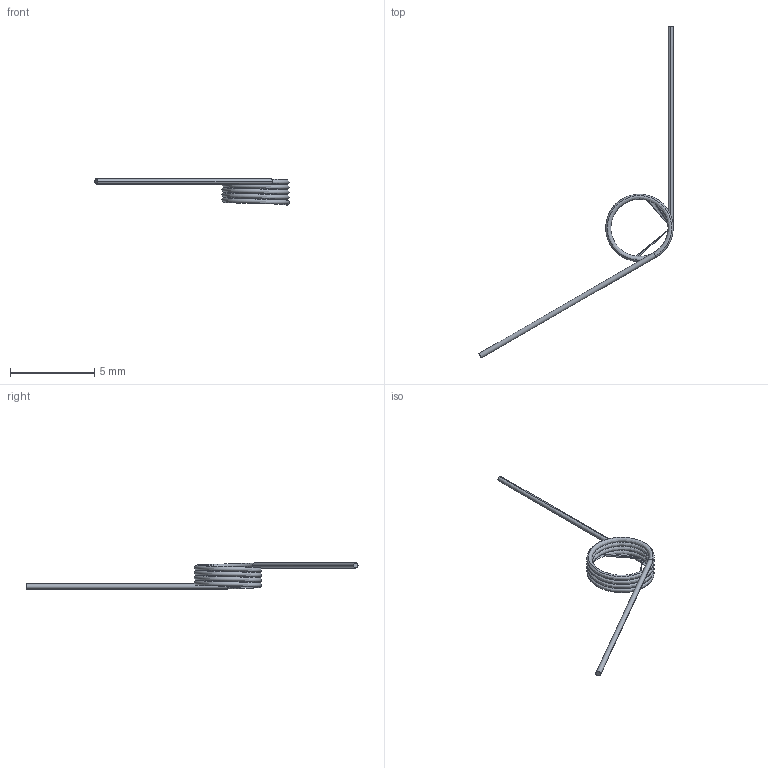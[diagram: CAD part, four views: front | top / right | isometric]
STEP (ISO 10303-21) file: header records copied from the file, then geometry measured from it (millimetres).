
FILE_DESCRIPTION (( 'STEP AP203' ), '1' );
FILE_NAME ('聾銅0.3x4x4X120.STEP', '2024-11-13T09:35:11', ( 'BBL' ), ( 'BBL' ), 'SwSTEP 2.0', 'SolidWorks 2023', '' );
FILE_SCHEMA (( 'CONFIG_CONTROL_DESIGN' ));
Length unit declared in the file: millimetre
Products named in the file (1): 扭簧0.3x4x4X120
Bounding box: 11.54 x 19.73 x 1.55 mm (x, y, z)
Volume: 4.6 mm3; surface area: 71.6 mm2
Topology: 1 solids, 1 shells, 8 faces, 20 edges, 13 vertices
Faces by surface type: cylinder 4, bspline 2, plane 2
Entity records: 1592 total; most frequent: CARTESIAN_POINT 1333, DIRECTION 40, ORIENTED_EDGE 38, EDGE_CURVE 19, AXIS2_PLACEMENT_3D 18, VERTEX_POINT 13, CIRCLE 11, FACE_OUTER_BOUND 8
